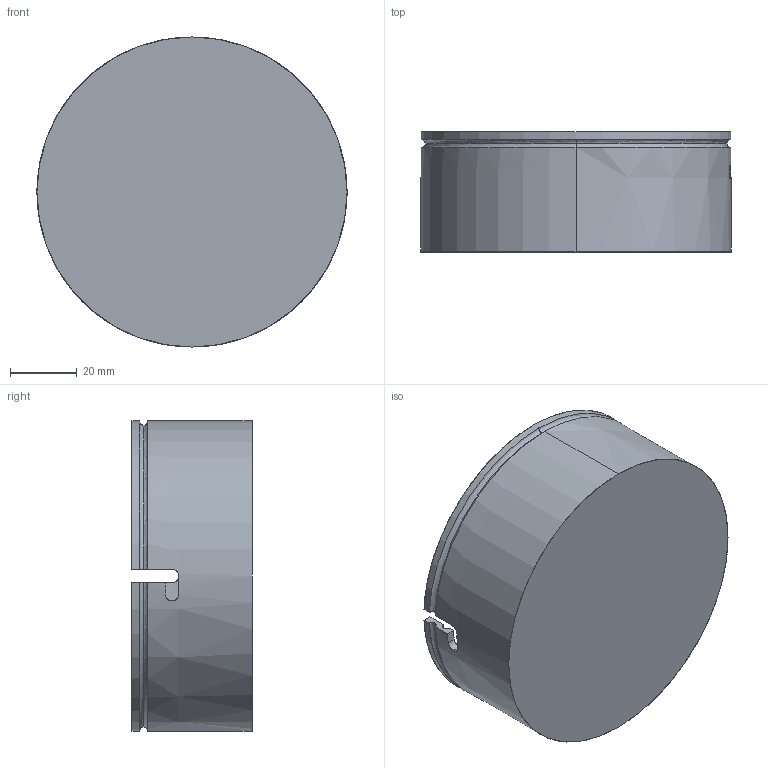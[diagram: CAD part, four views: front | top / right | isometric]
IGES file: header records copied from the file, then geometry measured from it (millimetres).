
Start section: SolidWorks IGES file using analytic representation for surfaces
Global section: file name: Z:\STIDD-Tronc commun\DEF_INNOV\base lampe LED60 - version 2025.IGS; native system: SolidWorks 2022; preprocessor: SolidWorks 2022; author: laurent.fayat; date: 250403.160559; units: millimetre
Bounding box: 93 x 36 x 93 mm (x, y, z)
Surface area: 35045.1 mm2 (no closed solid volume)
Topology: 0 solids, 0 shells, 83 faces, 1206 edges, 1206 vertices
Faces by surface type: bspline 59, revolution 24
